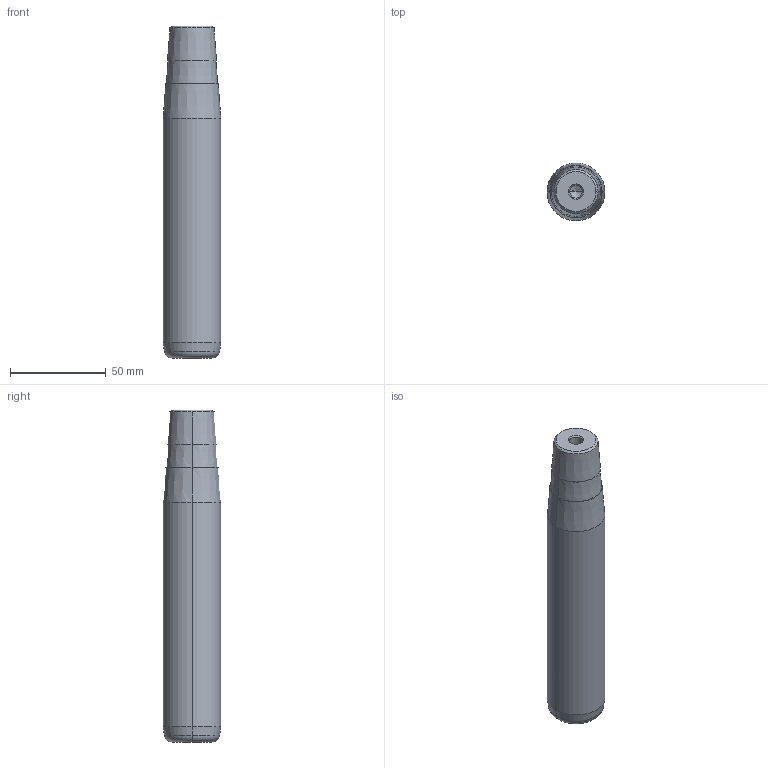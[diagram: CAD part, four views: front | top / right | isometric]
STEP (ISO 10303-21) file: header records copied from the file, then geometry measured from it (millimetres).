
FILE_DESCRIPTION(('CATIA V5 STEP Exchange'),'2;1');
FILE_NAME('C:\Users\Utente\Desktop\IO LAVORO\3D X SITO CF\X SITO\722\722-30x140x173.stp','2021-01-08T16:20:05+00:00',('none'),('none'),'CATIA Version 5 Release 20 GA (IN-10)','CATIA V5 STEP AP203','none');
FILE_SCHEMA(('CONFIG_CONTROL_DESIGN'));
Length unit declared in the file: millimetre
Products named in the file (1): 722-30x140x173
Bounding box: 30 x 30 x 173 mm (x, y, z)
Volume: 111987.8 mm3; surface area: 17720.4 mm2
Topology: 1 solids, 1 shells, 32 faces, 66 edges, 34 vertices
Faces by surface type: cone 22, cylinder 6, plane 2, torus 2
Entity records: 854 total; most frequent: CARTESIAN_POINT 175, DIRECTION 124, ORIENTED_EDGE 124, AXIS2_PLACEMENT_3D 65, EDGE_CURVE 62, EDGE_LOOP 34, VERTEX_POINT 34, ADVANCED_FACE 32
